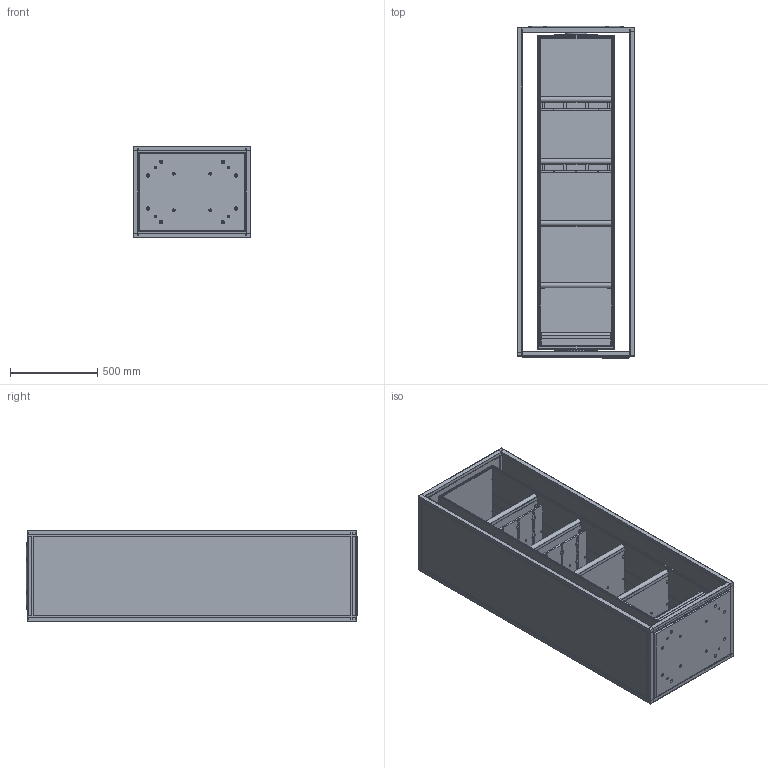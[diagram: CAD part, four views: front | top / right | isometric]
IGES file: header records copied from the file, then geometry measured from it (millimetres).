
Global section: file name: 80065; native system: Autodesk Inventor 2014; preprocessor: unknown; author: Robertom; date: 20140526.112247; units: millimetre
Bounding box: 675 x 1903.5 x 520 mm (x, y, z)
Volume: 106198249.3 mm3; surface area: 18572729.1 mm2
Topology: 68 solids, 84 shells, 2388 faces, 6800 edges, 4766 vertices
Faces by surface type: bspline 2388
